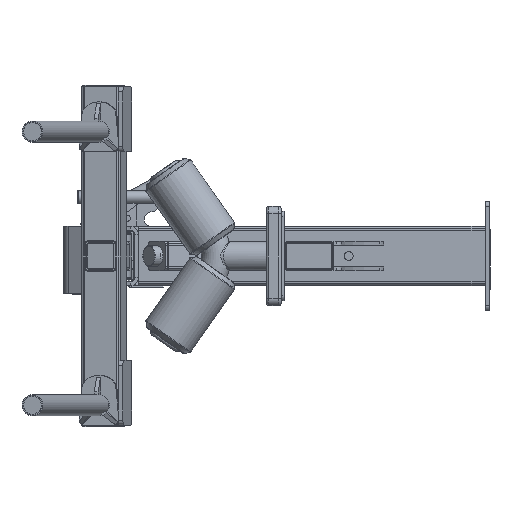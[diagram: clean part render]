
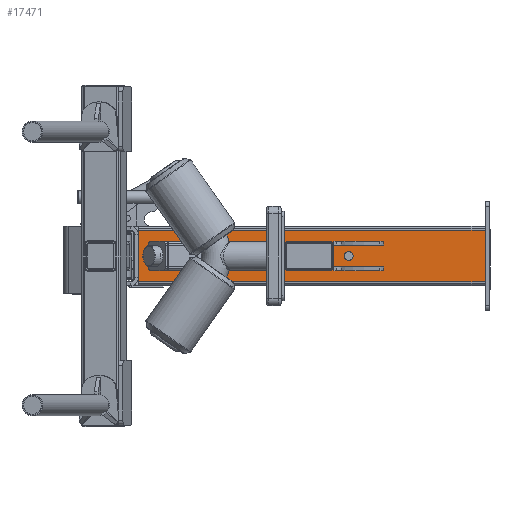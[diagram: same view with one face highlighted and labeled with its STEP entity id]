
A CAD part, left-side view. The second image highlights one B-rep face of the part: STEP entity #17471.
In plain terms, the highlighted planar face has unit normal (-1, 0, 0).
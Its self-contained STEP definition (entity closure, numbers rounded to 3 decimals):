
#868=FACE_BOUND('',#2799,.T.);
#869=FACE_BOUND('',#2800,.T.);
#870=FACE_BOUND('',#2801,.T.);
#871=FACE_BOUND('',#2802,.T.);
#1668=FACE_OUTER_BOUND('',#2798,.T.);
#2798=EDGE_LOOP('',(#14836,#14837,#14838,#14839));
#2799=EDGE_LOOP('',(#14840));
#2800=EDGE_LOOP('',(#14841));
#2801=EDGE_LOOP('',(#14842));
#2802=EDGE_LOOP('',(#14843));
#4345=LINE('',#31435,#5928);
#4352=LINE('',#31464,#5935);
#4364=LINE('',#31498,#5947);
#4365=LINE('',#31500,#5948);
#5928=VECTOR('',#23389,1000.);
#5935=VECTOR('',#23412,1000.);
#5947=VECTOR('',#23446,1000.);
#5948=VECTOR('',#23449,1000.);
#6795=CIRCLE('',#19092,9.);
#6797=CIRCLE('',#19095,9.);
#6799=CIRCLE('',#19098,9.);
#6801=CIRCLE('',#19101,5.);
#8220=VERTEX_POINT('',#31401);
#8222=VERTEX_POINT('',#31407);
#8224=VERTEX_POINT('',#31413);
#8226=VERTEX_POINT('',#31419);
#8232=VERTEX_POINT('',#31432);
#8233=VERTEX_POINT('',#31434);
#8246=VERTEX_POINT('',#31461);
#8247=VERTEX_POINT('',#31463);
#10470=EDGE_CURVE('',#8220,#8220,#6795,.T.);
#10473=EDGE_CURVE('',#8222,#8222,#6797,.T.);
#10476=EDGE_CURVE('',#8224,#8224,#6799,.T.);
#10479=EDGE_CURVE('',#8226,#8226,#6801,.T.);
#10485=EDGE_CURVE('',#8232,#8233,#4345,.T.);
#10499=EDGE_CURVE('',#8247,#8246,#4352,.T.);
#10517=EDGE_CURVE('',#8232,#8247,#4364,.T.);
#10518=EDGE_CURVE('',#8233,#8246,#4365,.T.);
#14836=ORIENTED_EDGE('',*,*,#10499,.T.);
#14837=ORIENTED_EDGE('',*,*,#10518,.F.);
#14838=ORIENTED_EDGE('',*,*,#10485,.F.);
#14839=ORIENTED_EDGE('',*,*,#10517,.T.);
#14840=ORIENTED_EDGE('',*,*,#10470,.T.);
#14841=ORIENTED_EDGE('',*,*,#10473,.T.);
#14842=ORIENTED_EDGE('',*,*,#10476,.T.);
#14843=ORIENTED_EDGE('',*,*,#10479,.F.);
#16579=PLANE('',#19125);
#17471=ADVANCED_FACE('',(#1668,#868,#869,#870,#871),#16579,.F.);
#19092=AXIS2_PLACEMENT_3D('',#31403,#23356,#23357);
#19095=AXIS2_PLACEMENT_3D('',#31409,#23363,#23364);
#19098=AXIS2_PLACEMENT_3D('',#31415,#23370,#23371);
#19101=AXIS2_PLACEMENT_3D('',#31421,#23377,#23378);
#19125=AXIS2_PLACEMENT_3D('',#31499,#23447,#23448);
#23356=DIRECTION('center_axis',(1.,0.,0.));
#23357=DIRECTION('ref_axis',(0.,0.,-1.));
#23363=DIRECTION('center_axis',(1.,0.,0.));
#23364=DIRECTION('ref_axis',(0.,0.,-1.));
#23370=DIRECTION('center_axis',(1.,0.,0.));
#23371=DIRECTION('ref_axis',(0.,0.,-1.));
#23377=DIRECTION('center_axis',(-1.,0.,0.));
#23378=DIRECTION('ref_axis',(0.,0.,1.));
#23389=DIRECTION('',(0.,0.,1.));
#23412=DIRECTION('',(0.,0.,1.));
#23446=DIRECTION('',(0.,-1.,0.));
#23447=DIRECTION('center_axis',(1.,0.,0.));
#23448=DIRECTION('ref_axis',(0.,0.,-1.));
#23449=DIRECTION('',(0.,-1.,0.));
#31401=CARTESIAN_POINT('',(810.13,361.664,1069.539));
#31403=CARTESIAN_POINT('Origin',(810.13,361.664,1078.539));
#31407=CARTESIAN_POINT('',(810.13,64.664,1069.539));
#31409=CARTESIAN_POINT('Origin',(810.13,64.664,1078.539));
#31413=CARTESIAN_POINT('',(810.13,224.664,1069.539));
#31415=CARTESIAN_POINT('Origin',(810.13,224.664,1078.539));
#31419=CARTESIAN_POINT('',(810.13,103.664,1073.539));
#31421=CARTESIAN_POINT('Origin',(810.13,103.664,1078.539));
#31432=CARTESIAN_POINT('',(810.13,487.664,1026.539));
#31434=CARTESIAN_POINT('',(810.13,487.664,1130.539));
#31435=CARTESIAN_POINT('',(810.13,487.664,1026.539));
#31461=CARTESIAN_POINT('',(810.13,-209.336,1130.539));
#31463=CARTESIAN_POINT('',(810.13,-209.336,1026.539));
#31464=CARTESIAN_POINT('',(810.13,-209.336,1026.539));
#31498=CARTESIAN_POINT('',(810.13,487.664,1026.539));
#31499=CARTESIAN_POINT('Origin',(810.13,487.664,1026.539));
#31500=CARTESIAN_POINT('',(810.13,487.664,1130.539));
